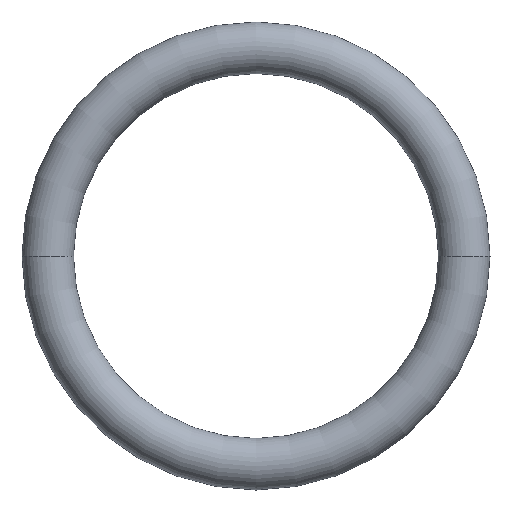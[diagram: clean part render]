
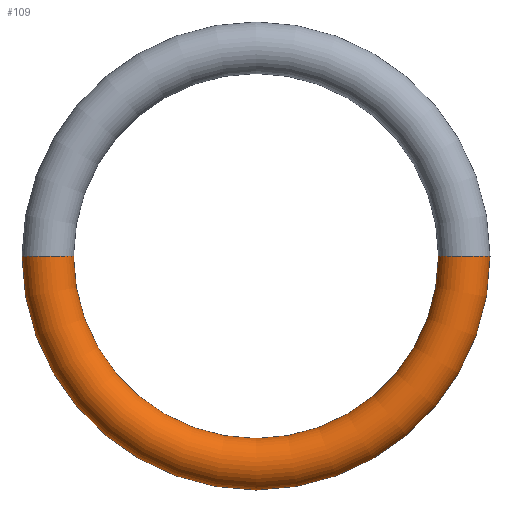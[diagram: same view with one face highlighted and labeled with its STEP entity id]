
A CAD part, left-side view. The second image highlights one B-rep face of the part: STEP entity #109.
In plain terms, the highlighted toroidal (fillet/blend) face has major radius 9.7 mm and minor radius 1.207 mm.
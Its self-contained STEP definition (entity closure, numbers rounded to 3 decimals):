
#2=CARTESIAN_POINT('',(7.58,0.,0.));
#3=DIRECTION('',(-1.,0.,0.));
#4=DIRECTION('',(0.,1.,0.));
#5=AXIS2_PLACEMENT_3D('',#2,#3,#4);
#7=CARTESIAN_POINT('',(7.707,9.7,0.));
#8=DIRECTION('',(0.,0.,1.));
#9=DIRECTION('',(-0.105,0.994,0.));
#10=AXIS2_PLACEMENT_3D('',#7,#8,#9);
#17=CARTESIAN_POINT('',(7.707,-9.7,0.));
#18=DIRECTION('',(0.,0.,-1.));
#19=DIRECTION('',(-0.105,-0.994,0.));
#20=AXIS2_PLACEMENT_3D('',#17,#18,#19);
#73=CARTESIAN_POINT('',(7.58,0.,0.));
#74=DIRECTION('',(-1.,0.,0.));
#75=DIRECTION('',(0.,1.,0.));
#76=AXIS2_PLACEMENT_3D('',#73,#74,#75);
#78=CARTESIAN_POINT('',(7.58,10.9,0.));
#79=CARTESIAN_POINT('',(7.58,8.5,0.));
#80=VERTEX_POINT('',#78);
#81=VERTEX_POINT('',#79);
#86=CARTESIAN_POINT('',(7.58,-10.9,0.));
#87=CARTESIAN_POINT('',(7.58,-8.5,0.));
#88=VERTEX_POINT('',#86);
#89=VERTEX_POINT('',#87);
#94=CARTESIAN_POINT('',(7.707,0.,0.));
#95=DIRECTION('',(-1.,0.,0.));
#96=DIRECTION('',(0.,1.,0.));
#97=AXIS2_PLACEMENT_3D('',#94,#95,#96);
#98=TOROIDAL_SURFACE('',#97,9.7,1.207);
#100=ORIENTED_EDGE('',*,*,#99,.T.);
#102=ORIENTED_EDGE('',*,*,#101,.T.);
#104=ORIENTED_EDGE('',*,*,#103,.F.);
#106=ORIENTED_EDGE('',*,*,#105,.F.);
#107=EDGE_LOOP('',(#100,#102,#104,#106));
#108=FACE_OUTER_BOUND('',#107,.F.);
#109=ADVANCED_FACE('',(#108),#98,.T.);
#6=CIRCLE('',#5,10.9);
#11=CIRCLE('',#10,1.207);
#21=CIRCLE('',#20,1.207);
#77=CIRCLE('',#76,8.5);
#99=EDGE_CURVE('',#80,#81,#11,.T.);
#101=EDGE_CURVE('',#81,#89,#77,.T.);
#103=EDGE_CURVE('',#88,#89,#21,.T.);
#105=EDGE_CURVE('',#80,#88,#6,.T.);
